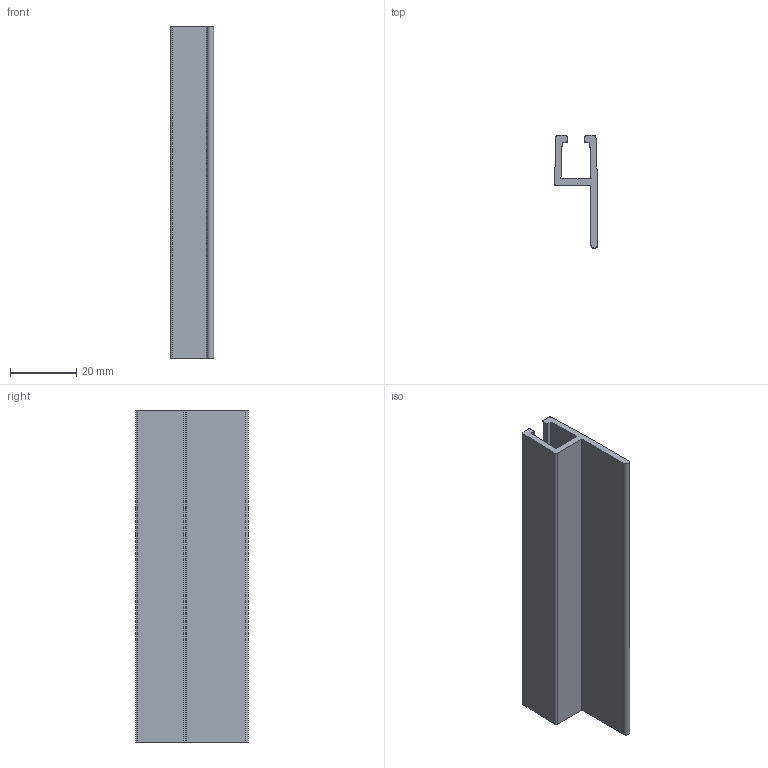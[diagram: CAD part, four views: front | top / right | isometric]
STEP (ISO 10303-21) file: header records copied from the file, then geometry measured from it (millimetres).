
FILE_DESCRIPTION(/* description */ ('BRACKET H-PROFILE FOR 300-3061'),/* implementation_level */ '2;1');
FILE_NAME(/* name */ '\\carryline.intra\privat\users\mathias\Desktop\Tillfälliga filer\300-3068.stp',/* time_stamp */ '2018-11-30T09:54:28+01:00',/* author */ ('MD'),/* organization */ ('CARRYLINE'),/* preprocessor_version */ 'ST-DEVELOPER v17',/* originating_system */ 'Autodesk Inventor 2018',/* authorisation */ '');
FILE_SCHEMA (('AUTOMOTIVE_DESIGN { 1 0 10303 214 3 1 1 }'));
Length unit declared in the file: millimetre
Products named in the file (1): 300-3068
Bounding box: 12.98 x 34 x 100 mm (x, y, z)
Volume: 11790 mm3; surface area: 12567.4 mm2
Topology: 1 solids, 1 shells, 29 faces, 81 edges, 54 vertices
Faces by surface type: plane 16, cylinder 13
Entity records: 980 total; most frequent: DIRECTION 167, CARTESIAN_POINT 165, ORIENTED_EDGE 162, EDGE_CURVE 81, AXIS2_PLACEMENT_3D 56, LINE 55, VECTOR 55, VERTEX_POINT 54
